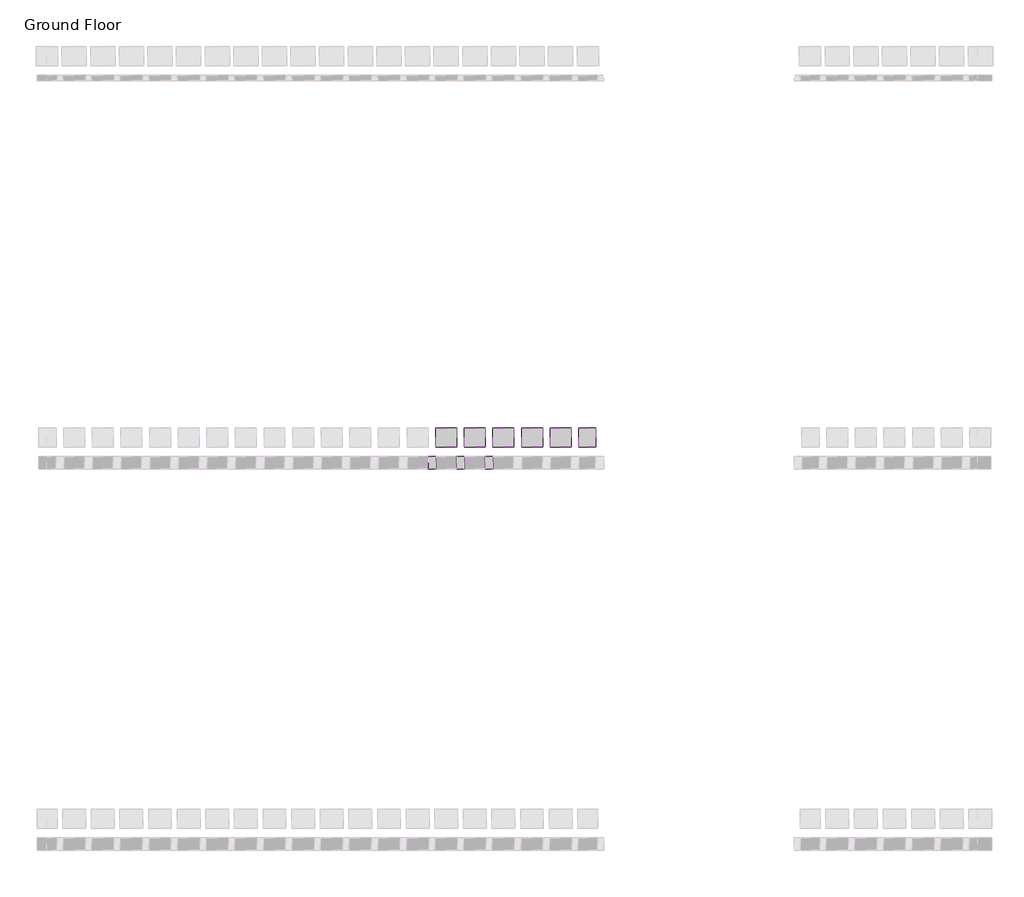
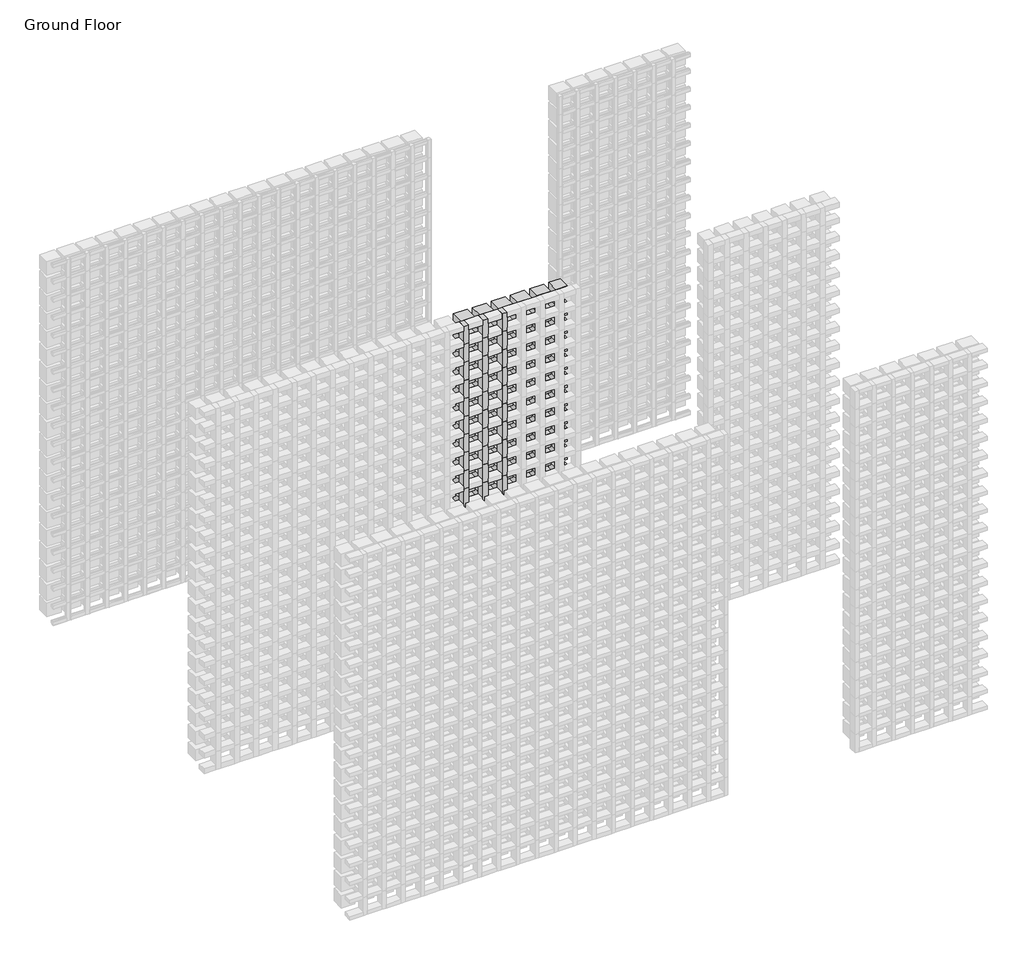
# One storey, part 124 of 350: 82 plates, 59 members.
"""IFC4 building model written with IfcOpenShell, lengths in millimetres."""

from ifc_helpers import new_model, si_unit, origin, place, context, project, spatial, transform, mapped, element, save
from components import rectangular_mullion_655930e9, empty_system_panel_empty_571a4fa0, empty_system_panel_empty_3b500fad, empty_system_panel_empty_1faefc6a, empty_system_panel_empty_b6d7d726

model = new_model("IFC4")

# Units and contexts
model_context = context("Model", 3, world=origin())
ifc_project = project(units=[si_unit("LENGTHUNIT", "METRE", prefix="MILLI")], contexts=[model_context])

# Site, building, storey
site = spatial("IfcSite", under=ifc_project)
building = spatial("IfcBuilding", under=site)
storey = spatial("IfcBuildingStorey", under=building, Name="Ground Floor", Elevation=0.0)

# Members
placement = place(None, origin())
rectangular_mullion_shape = rectangular_mullion_655930e9(model_context)
element("IfcMember", 1, ObjectType="Rectangular Mullion : Batten_Timber_Modinex_Austratus_Grid_Fascia_40x65_Blackbutt", at=placement, inside=storey, context=model_context, shape_type="MappedRepresentation", body=[
    mapped(rectangular_mullion_shape, transform((8016.4361642, 40968.2978302, 150.0), x_axis=(1.0, 0.0, 0.0), y_axis=(0.0, -1.0, 0.0), z_axis=(0.0, 0.0, -1.0))),
])
element("IfcMember", 2, ObjectType="Rectangular Mullion : Batten_Timber_Modinex_Austratus_Grid_Fascia_40x65_Blackbutt", at=placement, inside=storey, context=model_context, shape_type="MappedRepresentation", body=[
    mapped(rectangular_mullion_shape, transform((8016.4361642, 40968.2978302, 300.0), x_axis=(1.0, 0.0, 0.0), y_axis=(0.0, -1.0, 0.0), z_axis=(0.0, 0.0, -1.0))),
])
element("IfcMember", 3, ObjectType="Rectangular Mullion : Batten_Timber_Modinex_Austratus_Grid_Fascia_40x65_Blackbutt", at=placement, inside=storey, context=model_context, shape_type="MappedRepresentation", body=[
    mapped(rectangular_mullion_shape, transform((8016.4361642, 40968.2978302, 450.0), x_axis=(1.0, 0.0, 0.0), y_axis=(0.0, -1.0, 0.0), z_axis=(0.0, 0.0, -1.0))),
])
element("IfcMember", 4, ObjectType="Rectangular Mullion : Batten_Timber_Modinex_Austratus_Grid_Fascia_40x65_Blackbutt", at=placement, inside=storey, context=model_context, shape_type="MappedRepresentation", body=[
    mapped(rectangular_mullion_shape, transform((8016.4361642, 40968.2978302, 600.0), x_axis=(1.0, 0.0, 0.0), y_axis=(0.0, -1.0, 0.0), z_axis=(0.0, 0.0, -1.0))),
])
element("IfcMember", 5, ObjectType="Rectangular Mullion : Batten_Timber_Modinex_Austratus_Grid_Fascia_40x65_Blackbutt", at=placement, inside=storey, context=model_context, shape_type="MappedRepresentation", body=[
    mapped(rectangular_mullion_shape, transform((8016.4361642, 40968.2978302, 750.0), x_axis=(1.0, 0.0, 0.0), y_axis=(0.0, -1.0, 0.0), z_axis=(0.0, 0.0, -1.0))),
])
element("IfcMember", 6, ObjectType="Rectangular Mullion : Batten_Timber_Modinex_Austratus_Grid_Fascia_40x65_Blackbutt", at=placement, inside=storey, context=model_context, shape_type="MappedRepresentation", body=[
    mapped(rectangular_mullion_shape, transform((8016.4361642, 40968.2978302, 900.0), x_axis=(1.0, 0.0, 0.0), y_axis=(0.0, -1.0, 0.0), z_axis=(0.0, 0.0, -1.0))),
])
element("IfcMember", 7, ObjectType="Rectangular Mullion : Batten_Timber_Modinex_Austratus_Grid_Fascia_40x65_Blackbutt", at=placement, inside=storey, context=model_context, shape_type="MappedRepresentation", body=[
    mapped(rectangular_mullion_shape, transform((8016.4361642, 40968.2978302, 1050.0), x_axis=(1.0, 0.0, 0.0), y_axis=(0.0, -1.0, 0.0), z_axis=(0.0, 0.0, -1.0))),
])
element("IfcMember", 8, ObjectType="Rectangular Mullion : Batten_Timber_Modinex_Austratus_Grid_Fascia_40x65_Blackbutt", at=placement, inside=storey, context=model_context, shape_type="MappedRepresentation", body=[
    mapped(rectangular_mullion_shape, transform((8016.4361642, 40968.2978302, 1200.0), x_axis=(1.0, 0.0, 0.0), y_axis=(0.0, -1.0, 0.0), z_axis=(0.0, 0.0, -1.0))),
])
element("IfcMember", 9, ObjectType="Rectangular Mullion : Batten_Timber_Modinex_Austratus_Grid_Fascia_40x65_Blackbutt", at=placement, inside=storey, context=model_context, shape_type="MappedRepresentation", body=[
    mapped(rectangular_mullion_shape, transform((8016.4361642, 40968.2978302, 1350.0), x_axis=(1.0, 0.0, 0.0), y_axis=(0.0, -1.0, 0.0), z_axis=(0.0, 0.0, -1.0))),
])
element("IfcMember", 10, ObjectType="Rectangular Mullion : Batten_Timber_Modinex_Austratus_Grid_Fascia_40x65_Blackbutt", at=placement, inside=storey, context=model_context, shape_type="MappedRepresentation", body=[
    mapped(rectangular_mullion_shape, transform((8016.4361642, 40968.2978302, 1500.0), x_axis=(1.0, 0.0, 0.0), y_axis=(0.0, -1.0, 0.0), z_axis=(0.0, 0.0, -1.0))),
])
element("IfcMember", 11, ObjectType="Rectangular Mullion : Batten_Timber_Modinex_Austratus_Grid_Fascia_40x65_Blackbutt", at=placement, inside=storey, context=model_context, shape_type="MappedRepresentation", body=[
    mapped(rectangular_mullion_shape, transform((8016.4361642, 40968.2978302, 1650.0), x_axis=(1.0, 0.0, 0.0), y_axis=(0.0, -1.0, 0.0), z_axis=(0.0, 0.0, -1.0))),
])
element("IfcMember", 12, ObjectType="Rectangular Mullion : Batten_Timber_Modinex_Austratus_Grid_Fascia_40x65_Blackbutt", at=placement, inside=storey, context=model_context, shape_type="MappedRepresentation", body=[
    mapped(rectangular_mullion_shape, transform((8016.4361642, 40968.2978302, 1800.0), x_axis=(1.0, 0.0, 0.0), y_axis=(0.0, -1.0, 0.0), z_axis=(0.0, 0.0, -1.0))),
])
element("IfcMember", 13, ObjectType="Rectangular Mullion : Batten_Timber_Modinex_Austratus_Grid_Fascia_40x65_Blackbutt", at=placement, inside=storey, context=model_context, shape_type="MappedRepresentation", body=[
    mapped(rectangular_mullion_shape, transform((8016.4361642, 40968.2978302, 1950.0), x_axis=(1.0, 0.0, 0.0), y_axis=(0.0, -1.0, 0.0), z_axis=(0.0, 0.0, -1.0))),
])
element("IfcMember", 14, ObjectType="Rectangular Mullion : Batten_Timber_Modinex_Austratus_Grid_Fascia_40x65_Blackbutt", at=placement, inside=storey, context=model_context, shape_type="MappedRepresentation", body=[
    mapped(rectangular_mullion_shape, transform((8016.4361642, 40968.2978302, 2100.0), x_axis=(1.0, 0.0, 0.0), y_axis=(0.0, -1.0, 0.0), z_axis=(0.0, 0.0, -1.0))),
])
element("IfcMember", 15, ObjectType="Rectangular Mullion : Batten_Timber_Modinex_Austratus_Grid_Fascia_40x65_Blackbutt", at=placement, inside=storey, context=model_context, shape_type="MappedRepresentation", body=[
    mapped(rectangular_mullion_shape, transform((8016.4361642, 40968.2978302, 2250.0), x_axis=(1.0, 0.0, 0.0), y_axis=(0.0, -1.0, 0.0), z_axis=(0.0, 0.0, -1.0))),
])
element("IfcMember", 16, ObjectType="Rectangular Mullion : Batten_Timber_Modinex_Austratus_Grid_Fascia_40x65_Blackbutt", at=placement, inside=storey, context=model_context, shape_type="MappedRepresentation", body=[
    mapped(rectangular_mullion_shape, transform((8016.4361642, 40968.2978302, 2400.0), x_axis=(1.0, 0.0, 0.0), y_axis=(0.0, -1.0, 0.0), z_axis=(0.0, 0.0, -1.0))),
])
element("IfcMember", 17, ObjectType="Rectangular Mullion : Batten_Timber_Modinex_Austratus_Grid_Fascia_40x65_Blackbutt", at=placement, inside=storey, context=model_context, shape_type="MappedRepresentation", body=[
    mapped(rectangular_mullion_shape, transform((8016.4361642, 40968.2978302, 2550.0), x_axis=(1.0, 0.0, 0.0), y_axis=(0.0, -1.0, 0.0), z_axis=(0.0, 0.0, -1.0))),
])
element("IfcMember", 18, ObjectType="Rectangular Mullion : Batten_Timber_Modinex_Austratus_Grid_Fascia_40x65_Blackbutt", at=placement, inside=storey, context=model_context, shape_type="MappedRepresentation", body=[
    mapped(rectangular_mullion_shape, transform((8016.4361642, 40968.2978302, 2700.0), x_axis=(1.0, 0.0, 0.0), y_axis=(0.0, -1.0, 0.0), z_axis=(0.0, 0.0, -1.0))),
])
element("IfcMember", 19, ObjectType="Rectangular Mullion : Batten_Timber_Modinex_Austratus_Grid_Fascia_40x65_Blackbutt", at=placement, inside=storey, context=model_context, shape_type="MappedRepresentation", body=[
    mapped(rectangular_mullion_shape, transform((8166.4361642, 40968.2978302, 150.0), x_axis=(1.0, 0.0, 0.0), y_axis=(0.0, -1.0, 0.0), z_axis=(0.0, 0.0, -1.0))),
])
element("IfcMember", 20, ObjectType="Rectangular Mullion : Batten_Timber_Modinex_Austratus_Grid_Fascia_40x65_Blackbutt", at=placement, inside=storey, context=model_context, shape_type="MappedRepresentation", body=[
    mapped(rectangular_mullion_shape, transform((8166.4361642, 40968.2978302, 300.0), x_axis=(1.0, 0.0, 0.0), y_axis=(0.0, -1.0, 0.0), z_axis=(0.0, 0.0, -1.0))),
])
element("IfcMember", 21, ObjectType="Rectangular Mullion : Batten_Timber_Modinex_Austratus_Grid_Fascia_40x65_Blackbutt", at=placement, inside=storey, context=model_context, shape_type="MappedRepresentation", body=[
    mapped(rectangular_mullion_shape, transform((8166.4361642, 40968.2978302, 450.0), x_axis=(1.0, 0.0, 0.0), y_axis=(0.0, -1.0, 0.0), z_axis=(0.0, 0.0, -1.0))),
])
element("IfcMember", 22, ObjectType="Rectangular Mullion : Batten_Timber_Modinex_Austratus_Grid_Fascia_40x65_Blackbutt", at=placement, inside=storey, context=model_context, shape_type="MappedRepresentation", body=[
    mapped(rectangular_mullion_shape, transform((8166.4361642, 40968.2978302, 600.0), x_axis=(1.0, 0.0, 0.0), y_axis=(0.0, -1.0, 0.0), z_axis=(0.0, 0.0, -1.0))),
])
element("IfcMember", 23, ObjectType="Rectangular Mullion : Batten_Timber_Modinex_Austratus_Grid_Fascia_40x65_Blackbutt", at=placement, inside=storey, context=model_context, shape_type="MappedRepresentation", body=[
    mapped(rectangular_mullion_shape, transform((8166.4361642, 40968.2978302, 750.0), x_axis=(1.0, 0.0, 0.0), y_axis=(0.0, -1.0, 0.0), z_axis=(0.0, 0.0, -1.0))),
])
element("IfcMember", 24, ObjectType="Rectangular Mullion : Batten_Timber_Modinex_Austratus_Grid_Fascia_40x65_Blackbutt", at=placement, inside=storey, context=model_context, shape_type="MappedRepresentation", body=[
    mapped(rectangular_mullion_shape, transform((8166.4361642, 40968.2978302, 900.0), x_axis=(1.0, 0.0, 0.0), y_axis=(0.0, -1.0, 0.0), z_axis=(0.0, 0.0, -1.0))),
])
element("IfcMember", 25, ObjectType="Rectangular Mullion : Batten_Timber_Modinex_Austratus_Grid_Fascia_40x65_Blackbutt", at=placement, inside=storey, context=model_context, shape_type="MappedRepresentation", body=[
    mapped(rectangular_mullion_shape, transform((8166.4361642, 40968.2978302, 1050.0), x_axis=(1.0, 0.0, 0.0), y_axis=(0.0, -1.0, 0.0), z_axis=(0.0, 0.0, -1.0))),
])
element("IfcMember", 26, ObjectType="Rectangular Mullion : Batten_Timber_Modinex_Austratus_Grid_Fascia_40x65_Blackbutt", at=placement, inside=storey, context=model_context, shape_type="MappedRepresentation", body=[
    mapped(rectangular_mullion_shape, transform((8166.4361642, 40968.2978302, 1200.0), x_axis=(1.0, 0.0, 0.0), y_axis=(0.0, -1.0, 0.0), z_axis=(0.0, 0.0, -1.0))),
])
element("IfcMember", 27, ObjectType="Rectangular Mullion : Batten_Timber_Modinex_Austratus_Grid_Fascia_40x65_Blackbutt", at=placement, inside=storey, context=model_context, shape_type="MappedRepresentation", body=[
    mapped(rectangular_mullion_shape, transform((8166.4361642, 40968.2978302, 1350.0), x_axis=(1.0, 0.0, 0.0), y_axis=(0.0, -1.0, 0.0), z_axis=(0.0, 0.0, -1.0))),
])
element("IfcMember", 28, ObjectType="Rectangular Mullion : Batten_Timber_Modinex_Austratus_Grid_Fascia_40x65_Blackbutt", at=placement, inside=storey, context=model_context, shape_type="MappedRepresentation", body=[
    mapped(rectangular_mullion_shape, transform((8166.4361642, 40968.2978302, 1500.0), x_axis=(1.0, 0.0, 0.0), y_axis=(0.0, -1.0, 0.0), z_axis=(0.0, 0.0, -1.0))),
])
element("IfcMember", 29, ObjectType="Rectangular Mullion : Batten_Timber_Modinex_Austratus_Grid_Fascia_40x65_Blackbutt", at=placement, inside=storey, context=model_context, shape_type="MappedRepresentation", body=[
    mapped(rectangular_mullion_shape, transform((8166.4361642, 40968.2978302, 1650.0), x_axis=(1.0, 0.0, 0.0), y_axis=(0.0, -1.0, 0.0), z_axis=(0.0, 0.0, -1.0))),
])
element("IfcMember", 30, ObjectType="Rectangular Mullion : Batten_Timber_Modinex_Austratus_Grid_Fascia_40x65_Blackbutt", at=placement, inside=storey, context=model_context, shape_type="MappedRepresentation", body=[
    mapped(rectangular_mullion_shape, transform((8166.4361642, 40968.2978302, 1800.0), x_axis=(1.0, 0.0, 0.0), y_axis=(0.0, -1.0, 0.0), z_axis=(0.0, 0.0, -1.0))),
])
element("IfcMember", 31, ObjectType="Rectangular Mullion : Batten_Timber_Modinex_Austratus_Grid_Fascia_40x65_Blackbutt", at=placement, inside=storey, context=model_context, shape_type="MappedRepresentation", body=[
    mapped(rectangular_mullion_shape, transform((8166.4361642, 40968.2978302, 1950.0), x_axis=(1.0, 0.0, 0.0), y_axis=(0.0, -1.0, 0.0), z_axis=(0.0, 0.0, -1.0))),
])
element("IfcMember", 32, ObjectType="Rectangular Mullion : Batten_Timber_Modinex_Austratus_Grid_Fascia_40x65_Blackbutt", at=placement, inside=storey, context=model_context, shape_type="MappedRepresentation", body=[
    mapped(rectangular_mullion_shape, transform((8166.4361642, 40968.2978302, 2100.0), x_axis=(1.0, 0.0, 0.0), y_axis=(0.0, -1.0, 0.0), z_axis=(0.0, 0.0, -1.0))),
])
element("IfcMember", 33, ObjectType="Rectangular Mullion : Batten_Timber_Modinex_Austratus_Grid_Fascia_40x65_Blackbutt", at=placement, inside=storey, context=model_context, shape_type="MappedRepresentation", body=[
    mapped(rectangular_mullion_shape, transform((8166.4361642, 40968.2978302, 2250.0), x_axis=(1.0, 0.0, 0.0), y_axis=(0.0, -1.0, 0.0), z_axis=(0.0, 0.0, -1.0))),
])
element("IfcMember", 34, ObjectType="Rectangular Mullion : Batten_Timber_Modinex_Austratus_Grid_Fascia_40x65_Blackbutt", at=placement, inside=storey, context=model_context, shape_type="MappedRepresentation", body=[
    mapped(rectangular_mullion_shape, transform((8166.4361642, 40968.2978302, 2400.0), x_axis=(1.0, 0.0, 0.0), y_axis=(0.0, -1.0, 0.0), z_axis=(0.0, 0.0, -1.0))),
])
element("IfcMember", 35, ObjectType="Rectangular Mullion : Batten_Timber_Modinex_Austratus_Grid_Fascia_40x65_Blackbutt", at=placement, inside=storey, context=model_context, shape_type="MappedRepresentation", body=[
    mapped(rectangular_mullion_shape, transform((8166.4361642, 40968.2978302, 2550.0), x_axis=(1.0, 0.0, 0.0), y_axis=(0.0, -1.0, 0.0), z_axis=(0.0, 0.0, -1.0))),
])
element("IfcMember", 36, ObjectType="Rectangular Mullion : Batten_Timber_Modinex_Austratus_Grid_Fascia_40x65_Blackbutt", at=placement, inside=storey, context=model_context, shape_type="MappedRepresentation", body=[
    mapped(rectangular_mullion_shape, transform((8166.4361642, 40968.2978302, 2700.0), x_axis=(1.0, 0.0, 0.0), y_axis=(0.0, -1.0, 0.0), z_axis=(0.0, 0.0, -1.0))),
])
element("IfcMember", 37, ObjectType="Rectangular Mullion : Batten_Timber_Modinex_Austratus_Grid_Fascia_40x65_Blackbutt", at=placement, inside=storey, context=model_context, shape_type="MappedRepresentation", body=[
    mapped(rectangular_mullion_shape, transform((8316.4361642, 40968.2978302, 150.0), x_axis=(1.0, 0.0, 0.0), y_axis=(0.0, -1.0, 0.0), z_axis=(0.0, 0.0, -1.0))),
])
element("IfcMember", 38, ObjectType="Rectangular Mullion : Batten_Timber_Modinex_Austratus_Grid_Fascia_40x65_Blackbutt", at=placement, inside=storey, context=model_context, shape_type="MappedRepresentation", body=[
    mapped(rectangular_mullion_shape, transform((8316.4361642, 40968.2978302, 300.0), x_axis=(1.0, 0.0, 0.0), y_axis=(0.0, -1.0, 0.0), z_axis=(0.0, 0.0, -1.0))),
])
element("IfcMember", 39, ObjectType="Rectangular Mullion : Batten_Timber_Modinex_Austratus_Grid_Fascia_40x65_Blackbutt", at=placement, inside=storey, context=model_context, shape_type="MappedRepresentation", body=[
    mapped(rectangular_mullion_shape, transform((8316.4361642, 40968.2978302, 450.0), x_axis=(1.0, 0.0, 0.0), y_axis=(0.0, -1.0, 0.0), z_axis=(0.0, 0.0, -1.0))),
])
element("IfcMember", 40, ObjectType="Rectangular Mullion : Batten_Timber_Modinex_Austratus_Grid_Fascia_40x65_Blackbutt", at=placement, inside=storey, context=model_context, shape_type="MappedRepresentation", body=[
    mapped(rectangular_mullion_shape, transform((8316.4361642, 40968.2978302, 600.0), x_axis=(1.0, 0.0, 0.0), y_axis=(0.0, -1.0, 0.0), z_axis=(0.0, 0.0, -1.0))),
])
element("IfcMember", 41, ObjectType="Rectangular Mullion : Batten_Timber_Modinex_Austratus_Grid_Fascia_40x65_Blackbutt", at=placement, inside=storey, context=model_context, shape_type="MappedRepresentation", body=[
    mapped(rectangular_mullion_shape, transform((8316.4361642, 40968.2978302, 750.0), x_axis=(1.0, 0.0, 0.0), y_axis=(0.0, -1.0, 0.0), z_axis=(0.0, 0.0, -1.0))),
])
element("IfcMember", 42, ObjectType="Rectangular Mullion : Batten_Timber_Modinex_Austratus_Grid_Fascia_40x65_Blackbutt", at=placement, inside=storey, context=model_context, shape_type="MappedRepresentation", body=[
    mapped(rectangular_mullion_shape, transform((8316.4361642, 40968.2978302, 900.0), x_axis=(1.0, 0.0, 0.0), y_axis=(0.0, -1.0, 0.0), z_axis=(0.0, 0.0, -1.0))),
])
element("IfcMember", 43, ObjectType="Rectangular Mullion : Batten_Timber_Modinex_Austratus_Grid_Fascia_40x65_Blackbutt", at=placement, inside=storey, context=model_context, shape_type="MappedRepresentation", body=[
    mapped(rectangular_mullion_shape, transform((8316.4361642, 40968.2978302, 1050.0), x_axis=(1.0, 0.0, 0.0), y_axis=(0.0, -1.0, 0.0), z_axis=(0.0, 0.0, -1.0))),
])
element("IfcMember", 44, ObjectType="Rectangular Mullion : Batten_Timber_Modinex_Austratus_Grid_Fascia_40x65_Blackbutt", at=placement, inside=storey, context=model_context, shape_type="MappedRepresentation", body=[
    mapped(rectangular_mullion_shape, transform((8316.4361642, 40968.2978302, 1200.0), x_axis=(1.0, 0.0, 0.0), y_axis=(0.0, -1.0, 0.0), z_axis=(0.0, 0.0, -1.0))),
])
element("IfcMember", 45, ObjectType="Rectangular Mullion : Batten_Timber_Modinex_Austratus_Grid_Fascia_40x65_Blackbutt", at=placement, inside=storey, context=model_context, shape_type="MappedRepresentation", body=[
    mapped(rectangular_mullion_shape, transform((8316.4361642, 40968.2978302, 1350.0), x_axis=(1.0, 0.0, 0.0), y_axis=(0.0, -1.0, 0.0), z_axis=(0.0, 0.0, -1.0))),
])
element("IfcMember", 46, ObjectType="Rectangular Mullion : Batten_Timber_Modinex_Austratus_Grid_Fascia_40x65_Blackbutt", at=placement, inside=storey, context=model_context, shape_type="MappedRepresentation", body=[
    mapped(rectangular_mullion_shape, transform((8316.4361642, 40968.2978302, 1500.0), x_axis=(1.0, 0.0, 0.0), y_axis=(0.0, -1.0, 0.0), z_axis=(0.0, 0.0, -1.0))),
])
element("IfcMember", 47, ObjectType="Rectangular Mullion : Batten_Timber_Modinex_Austratus_Grid_Fascia_40x65_Blackbutt", at=placement, inside=storey, context=model_context, shape_type="MappedRepresentation", body=[
    mapped(rectangular_mullion_shape, transform((8316.4361642, 40968.2978302, 1650.0), x_axis=(1.0, 0.0, 0.0), y_axis=(0.0, -1.0, 0.0), z_axis=(0.0, 0.0, -1.0))),
])
element("IfcMember", 48, ObjectType="Rectangular Mullion : Batten_Timber_Modinex_Austratus_Grid_Fascia_40x65_Blackbutt", at=placement, inside=storey, context=model_context, shape_type="MappedRepresentation", body=[
    mapped(rectangular_mullion_shape, transform((8316.4361642, 40968.2978302, 1800.0), x_axis=(1.0, 0.0, 0.0), y_axis=(0.0, -1.0, 0.0), z_axis=(0.0, 0.0, -1.0))),
])
element("IfcMember", 49, ObjectType="Rectangular Mullion : Batten_Timber_Modinex_Austratus_Grid_Fascia_40x65_Blackbutt", at=placement, inside=storey, context=model_context, shape_type="MappedRepresentation", body=[
    mapped(rectangular_mullion_shape, transform((8316.4361642, 40968.2978302, 1950.0), x_axis=(1.0, 0.0, 0.0), y_axis=(0.0, -1.0, 0.0), z_axis=(0.0, 0.0, -1.0))),
])
element("IfcMember", 50, ObjectType="Rectangular Mullion : Batten_Timber_Modinex_Austratus_Grid_Fascia_40x65_Blackbutt", at=placement, inside=storey, context=model_context, shape_type="MappedRepresentation", body=[
    mapped(rectangular_mullion_shape, transform((8316.4361642, 40968.2978302, 2100.0), x_axis=(1.0, 0.0, 0.0), y_axis=(0.0, -1.0, 0.0), z_axis=(0.0, 0.0, -1.0))),
])
element("IfcMember", 51, ObjectType="Rectangular Mullion : Batten_Timber_Modinex_Austratus_Grid_Fascia_40x65_Blackbutt", at=placement, inside=storey, context=model_context, shape_type="MappedRepresentation", body=[
    mapped(rectangular_mullion_shape, transform((8316.4361642, 40968.2978302, 2250.0), x_axis=(1.0, 0.0, 0.0), y_axis=(0.0, -1.0, 0.0), z_axis=(0.0, 0.0, -1.0))),
])
element("IfcMember", 52, ObjectType="Rectangular Mullion : Batten_Timber_Modinex_Austratus_Grid_Fascia_40x65_Blackbutt", at=placement, inside=storey, context=model_context, shape_type="MappedRepresentation", body=[
    mapped(rectangular_mullion_shape, transform((8316.4361642, 40968.2978302, 2400.0), x_axis=(1.0, 0.0, 0.0), y_axis=(0.0, -1.0, 0.0), z_axis=(0.0, 0.0, -1.0))),
])
element("IfcMember", 53, ObjectType="Rectangular Mullion : Batten_Timber_Modinex_Austratus_Grid_Fascia_40x65_Blackbutt", at=placement, inside=storey, context=model_context, shape_type="MappedRepresentation", body=[
    mapped(rectangular_mullion_shape, transform((8316.4361642, 40968.2978302, 2550.0), x_axis=(1.0, 0.0, 0.0), y_axis=(0.0, -1.0, 0.0), z_axis=(0.0, 0.0, -1.0))),
])
element("IfcMember", 54, ObjectType="Rectangular Mullion : Batten_Timber_Modinex_Austratus_Grid_Fascia_40x65_Blackbutt", at=placement, inside=storey, context=model_context, shape_type="MappedRepresentation", body=[
    mapped(rectangular_mullion_shape, transform((8316.4361642, 40968.2978302, 2700.0), x_axis=(1.0, 0.0, 0.0), y_axis=(0.0, -1.0, 0.0), z_axis=(0.0, 0.0, -1.0))),
])
element("IfcMember", 55, ObjectType="Rectangular Mullion : Batten_Timber_Modinex_Austratus_Grid_Fascia_40x65_Blackbutt", at=placement, inside=storey, context=model_context, shape_type="MappedRepresentation", body=[
    mapped(rectangular_mullion_shape, transform((8466.4361642, 40968.2978302, 150.0), x_axis=(1.0, 0.0, 0.0), y_axis=(0.0, -1.0, 0.0), z_axis=(0.0, 0.0, -1.0))),
])
element("IfcMember", 56, ObjectType="Rectangular Mullion : Batten_Timber_Modinex_Austratus_Grid_Fascia_40x65_Blackbutt", at=placement, inside=storey, context=model_context, shape_type="MappedRepresentation", body=[
    mapped(rectangular_mullion_shape, transform((8466.4361642, 40968.2978302, 300.0), x_axis=(1.0, 0.0, 0.0), y_axis=(0.0, -1.0, 0.0), z_axis=(0.0, 0.0, -1.0))),
])
element("IfcMember", 57, ObjectType="Rectangular Mullion : Batten_Timber_Modinex_Austratus_Grid_Fascia_40x65_Blackbutt", at=placement, inside=storey, context=model_context, shape_type="MappedRepresentation", body=[
    mapped(rectangular_mullion_shape, transform((8016.4361642, 40968.2978302, 2850.0), x_axis=(1.0, 0.0, 0.0), y_axis=(0.0, -1.0, 0.0), z_axis=(0.0, 0.0, -1.0))),
])
element("IfcMember", 58, ObjectType="Rectangular Mullion : Batten_Timber_Modinex_Austratus_Grid_Fascia_40x65_Blackbutt", at=placement, inside=storey, context=model_context, shape_type="MappedRepresentation", body=[
    mapped(rectangular_mullion_shape, transform((8166.4361642, 40968.2978302, 2850.0), x_axis=(1.0, 0.0, 0.0), y_axis=(0.0, -1.0, 0.0), z_axis=(0.0, 0.0, -1.0))),
])
element("IfcMember", 59, ObjectType="Rectangular Mullion : Batten_Timber_Modinex_Austratus_Grid_Fascia_40x65_Blackbutt", at=placement, inside=storey, context=model_context, shape_type="MappedRepresentation", body=[
    mapped(rectangular_mullion_shape, transform((8316.4361642, 40968.2978302, 2850.0), x_axis=(1.0, 0.0, 0.0), y_axis=(0.0, -1.0, 0.0), z_axis=(0.0, 0.0, -1.0))),
])

# Plates
empty_system_panel_empty_shape = empty_system_panel_empty_571a4fa0(model_context)
element("IfcPlate", 60, ObjectType="Empty System Panel : Empty", at=placement, inside=storey, context=model_context, shape_type="MappedRepresentation", body=[
    mapped(empty_system_panel_empty_shape, transform((8831.4361641, 40968.2978302, 2870.0), x_axis=(1.0, 0.0, 0.0), y_axis=(0.0, 1.0, 0.0), z_axis=(0.0, 0.0, 1.0))),
])
empty_system_panel_empty_2_shape = empty_system_panel_empty_3b500fad(model_context)
element("IfcPlate", 61, ObjectType="Empty System Panel : Empty", at=placement, inside=storey, context=model_context, shape_type="MappedRepresentation", body=[
    mapped(empty_system_panel_empty_2_shape, transform((8391.4361642, 40968.2978302, 920.0), x_axis=(1.0, 0.0, 0.0), y_axis=(0.0, 1.0, 0.0), z_axis=(0.0, 0.0, 1.0))),
])
element("IfcPlate", 62, ObjectType="Empty System Panel : Empty", at=placement, inside=storey, context=model_context, shape_type="MappedRepresentation", body=[
    mapped(empty_system_panel_empty_2_shape, transform((8541.4361642, 40968.2978302, 920.0), x_axis=(1.0, 0.0, 0.0), y_axis=(0.0, 1.0, 0.0), z_axis=(0.0, 0.0, 1.0))),
])
element("IfcPlate", 63, ObjectType="Empty System Panel : Empty", at=placement, inside=storey, context=model_context, shape_type="MappedRepresentation", body=[
    mapped(empty_system_panel_empty_2_shape, transform((8691.4361642, 40968.2978302, 920.0), x_axis=(1.0, 0.0, 0.0), y_axis=(0.0, 1.0, 0.0), z_axis=(0.0, 0.0, 1.0))),
])
element("IfcPlate", 64, ObjectType="Empty System Panel : Empty", at=placement, inside=storey, context=model_context, shape_type="MappedRepresentation", body=[
    mapped(empty_system_panel_empty_2_shape, transform((8091.4361642, 40968.2978302, 1070.0), x_axis=(1.0, 0.0, 0.0), y_axis=(0.0, 1.0, 0.0), z_axis=(0.0, 0.0, 1.0))),
])
element("IfcPlate", 65, ObjectType="Empty System Panel : Empty", at=placement, inside=storey, context=model_context, shape_type="MappedRepresentation", body=[
    mapped(empty_system_panel_empty_2_shape, transform((8241.4361642, 40968.2978302, 1070.0), x_axis=(1.0, 0.0, 0.0), y_axis=(0.0, 1.0, 0.0), z_axis=(0.0, 0.0, 1.0))),
])
element("IfcPlate", 66, ObjectType="Empty System Panel : Empty", at=placement, inside=storey, context=model_context, shape_type="MappedRepresentation", body=[
    mapped(empty_system_panel_empty_2_shape, transform((8391.4361642, 40968.2978302, 1070.0), x_axis=(1.0, 0.0, 0.0), y_axis=(0.0, 1.0, 0.0), z_axis=(0.0, 0.0, 1.0))),
])
element("IfcPlate", 67, ObjectType="Empty System Panel : Empty", at=placement, inside=storey, context=model_context, shape_type="MappedRepresentation", body=[
    mapped(empty_system_panel_empty_2_shape, transform((8541.4361642, 40968.2978302, 1070.0), x_axis=(1.0, 0.0, 0.0), y_axis=(0.0, 1.0, 0.0), z_axis=(0.0, 0.0, 1.0))),
])
element("IfcPlate", 68, ObjectType="Empty System Panel : Empty", at=placement, inside=storey, context=model_context, shape_type="MappedRepresentation", body=[
    mapped(empty_system_panel_empty_2_shape, transform((8691.4361642, 40968.2978302, 1070.0), x_axis=(1.0, 0.0, 0.0), y_axis=(0.0, 1.0, 0.0), z_axis=(0.0, 0.0, 1.0))),
])
element("IfcPlate", 69, ObjectType="Empty System Panel : Empty", at=placement, inside=storey, context=model_context, shape_type="MappedRepresentation", body=[
    mapped(empty_system_panel_empty_2_shape, transform((8091.4361642, 40968.2978302, 1220.0), x_axis=(1.0, 0.0, 0.0), y_axis=(0.0, 1.0, 0.0), z_axis=(0.0, 0.0, 1.0))),
])
element("IfcPlate", 70, ObjectType="Empty System Panel : Empty", at=placement, inside=storey, context=model_context, shape_type="MappedRepresentation", body=[
    mapped(empty_system_panel_empty_2_shape, transform((8241.4361642, 40968.2978302, 1220.0), x_axis=(1.0, 0.0, 0.0), y_axis=(0.0, 1.0, 0.0), z_axis=(0.0, 0.0, 1.0))),
])
element("IfcPlate", 71, ObjectType="Empty System Panel : Empty", at=placement, inside=storey, context=model_context, shape_type="MappedRepresentation", body=[
    mapped(empty_system_panel_empty_2_shape, transform((8391.4361642, 40968.2978302, 1220.0), x_axis=(1.0, 0.0, 0.0), y_axis=(0.0, 1.0, 0.0), z_axis=(0.0, 0.0, 1.0))),
])
element("IfcPlate", 72, ObjectType="Empty System Panel : Empty", at=placement, inside=storey, context=model_context, shape_type="MappedRepresentation", body=[
    mapped(empty_system_panel_empty_2_shape, transform((8541.4361642, 40968.2978302, 1220.0), x_axis=(1.0, 0.0, 0.0), y_axis=(0.0, 1.0, 0.0), z_axis=(0.0, 0.0, 1.0))),
])
element("IfcPlate", 73, ObjectType="Empty System Panel : Empty", at=placement, inside=storey, context=model_context, shape_type="MappedRepresentation", body=[
    mapped(empty_system_panel_empty_2_shape, transform((8691.4361642, 40968.2978302, 1220.0), x_axis=(1.0, 0.0, 0.0), y_axis=(0.0, 1.0, 0.0), z_axis=(0.0, 0.0, 1.0))),
])
element("IfcPlate", 74, ObjectType="Empty System Panel : Empty", at=placement, inside=storey, context=model_context, shape_type="MappedRepresentation", body=[
    mapped(empty_system_panel_empty_2_shape, transform((8091.4361642, 40968.2978302, 1370.0), x_axis=(1.0, 0.0, 0.0), y_axis=(0.0, 1.0, 0.0), z_axis=(0.0, 0.0, 1.0))),
])
element("IfcPlate", 75, ObjectType="Empty System Panel : Empty", at=placement, inside=storey, context=model_context, shape_type="MappedRepresentation", body=[
    mapped(empty_system_panel_empty_2_shape, transform((8241.4361642, 40968.2978302, 1370.0), x_axis=(1.0, 0.0, 0.0), y_axis=(0.0, 1.0, 0.0), z_axis=(0.0, 0.0, 1.0))),
])
element("IfcPlate", 76, ObjectType="Empty System Panel : Empty", at=placement, inside=storey, context=model_context, shape_type="MappedRepresentation", body=[
    mapped(empty_system_panel_empty_2_shape, transform((8391.4361642, 40968.2978302, 1370.0), x_axis=(1.0, 0.0, 0.0), y_axis=(0.0, 1.0, 0.0), z_axis=(0.0, 0.0, 1.0))),
])
element("IfcPlate", 77, ObjectType="Empty System Panel : Empty", at=placement, inside=storey, context=model_context, shape_type="MappedRepresentation", body=[
    mapped(empty_system_panel_empty_2_shape, transform((8541.4361642, 40968.2978302, 1370.0), x_axis=(1.0, 0.0, 0.0), y_axis=(0.0, 1.0, 0.0), z_axis=(0.0, 0.0, 1.0))),
])
element("IfcPlate", 78, ObjectType="Empty System Panel : Empty", at=placement, inside=storey, context=model_context, shape_type="MappedRepresentation", body=[
    mapped(empty_system_panel_empty_2_shape, transform((8691.4361642, 40968.2978302, 1370.0), x_axis=(1.0, 0.0, 0.0), y_axis=(0.0, 1.0, 0.0), z_axis=(0.0, 0.0, 1.0))),
])
element("IfcPlate", 79, ObjectType="Empty System Panel : Empty", at=placement, inside=storey, context=model_context, shape_type="MappedRepresentation", body=[
    mapped(empty_system_panel_empty_2_shape, transform((8091.4361642, 40968.2978302, 1520.0), x_axis=(1.0, 0.0, 0.0), y_axis=(0.0, 1.0, 0.0), z_axis=(0.0, 0.0, 1.0))),
])
element("IfcPlate", 80, ObjectType="Empty System Panel : Empty", at=placement, inside=storey, context=model_context, shape_type="MappedRepresentation", body=[
    mapped(empty_system_panel_empty_2_shape, transform((8241.4361642, 40968.2978302, 1520.0), x_axis=(1.0, 0.0, 0.0), y_axis=(0.0, 1.0, 0.0), z_axis=(0.0, 0.0, 1.0))),
])
element("IfcPlate", 81, ObjectType="Empty System Panel : Empty", at=placement, inside=storey, context=model_context, shape_type="MappedRepresentation", body=[
    mapped(empty_system_panel_empty_2_shape, transform((8391.4361642, 40968.2978302, 1520.0), x_axis=(1.0, 0.0, 0.0), y_axis=(0.0, 1.0, 0.0), z_axis=(0.0, 0.0, 1.0))),
])
element("IfcPlate", 82, ObjectType="Empty System Panel : Empty", at=placement, inside=storey, context=model_context, shape_type="MappedRepresentation", body=[
    mapped(empty_system_panel_empty_2_shape, transform((8541.4361642, 40968.2978302, 1520.0), x_axis=(1.0, 0.0, 0.0), y_axis=(0.0, 1.0, 0.0), z_axis=(0.0, 0.0, 1.0))),
])
element("IfcPlate", 83, ObjectType="Empty System Panel : Empty", at=placement, inside=storey, context=model_context, shape_type="MappedRepresentation", body=[
    mapped(empty_system_panel_empty_2_shape, transform((8691.4361642, 40968.2978302, 1520.0), x_axis=(1.0, 0.0, 0.0), y_axis=(0.0, 1.0, 0.0), z_axis=(0.0, 0.0, 1.0))),
])
element("IfcPlate", 84, ObjectType="Empty System Panel : Empty", at=placement, inside=storey, context=model_context, shape_type="MappedRepresentation", body=[
    mapped(empty_system_panel_empty_2_shape, transform((8091.4361642, 40968.2978302, 1670.0), x_axis=(1.0, 0.0, 0.0), y_axis=(0.0, 1.0, 0.0), z_axis=(0.0, 0.0, 1.0))),
])
element("IfcPlate", 85, ObjectType="Empty System Panel : Empty", at=placement, inside=storey, context=model_context, shape_type="MappedRepresentation", body=[
    mapped(empty_system_panel_empty_2_shape, transform((8241.4361642, 40968.2978302, 1670.0), x_axis=(1.0, 0.0, 0.0), y_axis=(0.0, 1.0, 0.0), z_axis=(0.0, 0.0, 1.0))),
])
element("IfcPlate", 86, ObjectType="Empty System Panel : Empty", at=placement, inside=storey, context=model_context, shape_type="MappedRepresentation", body=[
    mapped(empty_system_panel_empty_2_shape, transform((8391.4361642, 40968.2978302, 1670.0), x_axis=(1.0, 0.0, 0.0), y_axis=(0.0, 1.0, 0.0), z_axis=(0.0, 0.0, 1.0))),
])
element("IfcPlate", 87, ObjectType="Empty System Panel : Empty", at=placement, inside=storey, context=model_context, shape_type="MappedRepresentation", body=[
    mapped(empty_system_panel_empty_2_shape, transform((8541.4361642, 40968.2978302, 1670.0), x_axis=(1.0, 0.0, 0.0), y_axis=(0.0, 1.0, 0.0), z_axis=(0.0, 0.0, 1.0))),
])
element("IfcPlate", 88, ObjectType="Empty System Panel : Empty", at=placement, inside=storey, context=model_context, shape_type="MappedRepresentation", body=[
    mapped(empty_system_panel_empty_2_shape, transform((8691.4361642, 40968.2978302, 1670.0), x_axis=(1.0, 0.0, 0.0), y_axis=(0.0, 1.0, 0.0), z_axis=(0.0, 0.0, 1.0))),
])
element("IfcPlate", 89, ObjectType="Empty System Panel : Empty", at=placement, inside=storey, context=model_context, shape_type="MappedRepresentation", body=[
    mapped(empty_system_panel_empty_2_shape, transform((8091.4361642, 40968.2978302, 1820.0), x_axis=(1.0, 0.0, 0.0), y_axis=(0.0, 1.0, 0.0), z_axis=(0.0, 0.0, 1.0))),
])
element("IfcPlate", 90, ObjectType="Empty System Panel : Empty", at=placement, inside=storey, context=model_context, shape_type="MappedRepresentation", body=[
    mapped(empty_system_panel_empty_2_shape, transform((8241.4361642, 40968.2978302, 1820.0), x_axis=(1.0, 0.0, 0.0), y_axis=(0.0, 1.0, 0.0), z_axis=(0.0, 0.0, 1.0))),
])
element("IfcPlate", 91, ObjectType="Empty System Panel : Empty", at=placement, inside=storey, context=model_context, shape_type="MappedRepresentation", body=[
    mapped(empty_system_panel_empty_2_shape, transform((8391.4361642, 40968.2978302, 1820.0), x_axis=(1.0, 0.0, 0.0), y_axis=(0.0, 1.0, 0.0), z_axis=(0.0, 0.0, 1.0))),
])
element("IfcPlate", 92, ObjectType="Empty System Panel : Empty", at=placement, inside=storey, context=model_context, shape_type="MappedRepresentation", body=[
    mapped(empty_system_panel_empty_2_shape, transform((8541.4361642, 40968.2978302, 1820.0), x_axis=(1.0, 0.0, 0.0), y_axis=(0.0, 1.0, 0.0), z_axis=(0.0, 0.0, 1.0))),
])
element("IfcPlate", 93, ObjectType="Empty System Panel : Empty", at=placement, inside=storey, context=model_context, shape_type="MappedRepresentation", body=[
    mapped(empty_system_panel_empty_2_shape, transform((8691.4361642, 40968.2978302, 1820.0), x_axis=(1.0, 0.0, 0.0), y_axis=(0.0, 1.0, 0.0), z_axis=(0.0, 0.0, 1.0))),
])
element("IfcPlate", 94, ObjectType="Empty System Panel : Empty", at=placement, inside=storey, context=model_context, shape_type="MappedRepresentation", body=[
    mapped(empty_system_panel_empty_2_shape, transform((8091.4361642, 40968.2978302, 1970.0), x_axis=(1.0, 0.0, 0.0), y_axis=(0.0, 1.0, 0.0), z_axis=(0.0, 0.0, 1.0))),
])
element("IfcPlate", 95, ObjectType="Empty System Panel : Empty", at=placement, inside=storey, context=model_context, shape_type="MappedRepresentation", body=[
    mapped(empty_system_panel_empty_2_shape, transform((8241.4361642, 40968.2978302, 1970.0), x_axis=(1.0, 0.0, 0.0), y_axis=(0.0, 1.0, 0.0), z_axis=(0.0, 0.0, 1.0))),
])
element("IfcPlate", 96, ObjectType="Empty System Panel : Empty", at=placement, inside=storey, context=model_context, shape_type="MappedRepresentation", body=[
    mapped(empty_system_panel_empty_2_shape, transform((8391.4361642, 40968.2978302, 1970.0), x_axis=(1.0, 0.0, 0.0), y_axis=(0.0, 1.0, 0.0), z_axis=(0.0, 0.0, 1.0))),
])
element("IfcPlate", 97, ObjectType="Empty System Panel : Empty", at=placement, inside=storey, context=model_context, shape_type="MappedRepresentation", body=[
    mapped(empty_system_panel_empty_2_shape, transform((8541.4361642, 40968.2978302, 1970.0), x_axis=(1.0, 0.0, 0.0), y_axis=(0.0, 1.0, 0.0), z_axis=(0.0, 0.0, 1.0))),
])
element("IfcPlate", 98, ObjectType="Empty System Panel : Empty", at=placement, inside=storey, context=model_context, shape_type="MappedRepresentation", body=[
    mapped(empty_system_panel_empty_2_shape, transform((8691.4361642, 40968.2978302, 1970.0), x_axis=(1.0, 0.0, 0.0), y_axis=(0.0, 1.0, 0.0), z_axis=(0.0, 0.0, 1.0))),
])
element("IfcPlate", 99, ObjectType="Empty System Panel : Empty", at=placement, inside=storey, context=model_context, shape_type="MappedRepresentation", body=[
    mapped(empty_system_panel_empty_2_shape, transform((8091.4361642, 40968.2978302, 2120.0), x_axis=(1.0, 0.0, 0.0), y_axis=(0.0, 1.0, 0.0), z_axis=(0.0, 0.0, 1.0))),
])
element("IfcPlate", 100, ObjectType="Empty System Panel : Empty", at=placement, inside=storey, context=model_context, shape_type="MappedRepresentation", body=[
    mapped(empty_system_panel_empty_2_shape, transform((8241.4361642, 40968.2978302, 2120.0), x_axis=(1.0, 0.0, 0.0), y_axis=(0.0, 1.0, 0.0), z_axis=(0.0, 0.0, 1.0))),
])
element("IfcPlate", 101, ObjectType="Empty System Panel : Empty", at=placement, inside=storey, context=model_context, shape_type="MappedRepresentation", body=[
    mapped(empty_system_panel_empty_2_shape, transform((8391.4361642, 40968.2978302, 2120.0), x_axis=(1.0, 0.0, 0.0), y_axis=(0.0, 1.0, 0.0), z_axis=(0.0, 0.0, 1.0))),
])
element("IfcPlate", 102, ObjectType="Empty System Panel : Empty", at=placement, inside=storey, context=model_context, shape_type="MappedRepresentation", body=[
    mapped(empty_system_panel_empty_2_shape, transform((8541.4361642, 40968.2978302, 2120.0), x_axis=(1.0, 0.0, 0.0), y_axis=(0.0, 1.0, 0.0), z_axis=(0.0, 0.0, 1.0))),
])
element("IfcPlate", 103, ObjectType="Empty System Panel : Empty", at=placement, inside=storey, context=model_context, shape_type="MappedRepresentation", body=[
    mapped(empty_system_panel_empty_2_shape, transform((8691.4361642, 40968.2978302, 2120.0), x_axis=(1.0, 0.0, 0.0), y_axis=(0.0, 1.0, 0.0), z_axis=(0.0, 0.0, 1.0))),
])
element("IfcPlate", 104, ObjectType="Empty System Panel : Empty", at=placement, inside=storey, context=model_context, shape_type="MappedRepresentation", body=[
    mapped(empty_system_panel_empty_2_shape, transform((8091.4361642, 40968.2978302, 2270.0), x_axis=(1.0, 0.0, 0.0), y_axis=(0.0, 1.0, 0.0), z_axis=(0.0, 0.0, 1.0))),
])
element("IfcPlate", 105, ObjectType="Empty System Panel : Empty", at=placement, inside=storey, context=model_context, shape_type="MappedRepresentation", body=[
    mapped(empty_system_panel_empty_2_shape, transform((8241.4361642, 40968.2978302, 2270.0), x_axis=(1.0, 0.0, 0.0), y_axis=(0.0, 1.0, 0.0), z_axis=(0.0, 0.0, 1.0))),
])
element("IfcPlate", 106, ObjectType="Empty System Panel : Empty", at=placement, inside=storey, context=model_context, shape_type="MappedRepresentation", body=[
    mapped(empty_system_panel_empty_2_shape, transform((8391.4361642, 40968.2978302, 2270.0), x_axis=(1.0, 0.0, 0.0), y_axis=(0.0, 1.0, 0.0), z_axis=(0.0, 0.0, 1.0))),
])
element("IfcPlate", 107, ObjectType="Empty System Panel : Empty", at=placement, inside=storey, context=model_context, shape_type="MappedRepresentation", body=[
    mapped(empty_system_panel_empty_2_shape, transform((8541.4361642, 40968.2978302, 2270.0), x_axis=(1.0, 0.0, 0.0), y_axis=(0.0, 1.0, 0.0), z_axis=(0.0, 0.0, 1.0))),
])
element("IfcPlate", 108, ObjectType="Empty System Panel : Empty", at=placement, inside=storey, context=model_context, shape_type="MappedRepresentation", body=[
    mapped(empty_system_panel_empty_2_shape, transform((8691.4361642, 40968.2978302, 2270.0), x_axis=(1.0, 0.0, 0.0), y_axis=(0.0, 1.0, 0.0), z_axis=(0.0, 0.0, 1.0))),
])
element("IfcPlate", 109, ObjectType="Empty System Panel : Empty", at=placement, inside=storey, context=model_context, shape_type="MappedRepresentation", body=[
    mapped(empty_system_panel_empty_2_shape, transform((8091.4361642, 40968.2978302, 2420.0), x_axis=(1.0, 0.0, 0.0), y_axis=(0.0, 1.0, 0.0), z_axis=(0.0, 0.0, 1.0))),
])
element("IfcPlate", 110, ObjectType="Empty System Panel : Empty", at=placement, inside=storey, context=model_context, shape_type="MappedRepresentation", body=[
    mapped(empty_system_panel_empty_2_shape, transform((8241.4361642, 40968.2978302, 2420.0), x_axis=(1.0, 0.0, 0.0), y_axis=(0.0, 1.0, 0.0), z_axis=(0.0, 0.0, 1.0))),
])
element("IfcPlate", 111, ObjectType="Empty System Panel : Empty", at=placement, inside=storey, context=model_context, shape_type="MappedRepresentation", body=[
    mapped(empty_system_panel_empty_2_shape, transform((8391.4361642, 40968.2978302, 2420.0), x_axis=(1.0, 0.0, 0.0), y_axis=(0.0, 1.0, 0.0), z_axis=(0.0, 0.0, 1.0))),
])
element("IfcPlate", 112, ObjectType="Empty System Panel : Empty", at=placement, inside=storey, context=model_context, shape_type="MappedRepresentation", body=[
    mapped(empty_system_panel_empty_2_shape, transform((8541.4361642, 40968.2978302, 2420.0), x_axis=(1.0, 0.0, 0.0), y_axis=(0.0, 1.0, 0.0), z_axis=(0.0, 0.0, 1.0))),
])
element("IfcPlate", 113, ObjectType="Empty System Panel : Empty", at=placement, inside=storey, context=model_context, shape_type="MappedRepresentation", body=[
    mapped(empty_system_panel_empty_2_shape, transform((8691.4361642, 40968.2978302, 2420.0), x_axis=(1.0, 0.0, 0.0), y_axis=(0.0, 1.0, 0.0), z_axis=(0.0, 0.0, 1.0))),
])
element("IfcPlate", 114, ObjectType="Empty System Panel : Empty", at=placement, inside=storey, context=model_context, shape_type="MappedRepresentation", body=[
    mapped(empty_system_panel_empty_2_shape, transform((8091.4361642, 40968.2978302, 2570.0), x_axis=(1.0, 0.0, 0.0), y_axis=(0.0, 1.0, 0.0), z_axis=(0.0, 0.0, 1.0))),
])
element("IfcPlate", 115, ObjectType="Empty System Panel : Empty", at=placement, inside=storey, context=model_context, shape_type="MappedRepresentation", body=[
    mapped(empty_system_panel_empty_2_shape, transform((8241.4361642, 40968.2978302, 2570.0), x_axis=(1.0, 0.0, 0.0), y_axis=(0.0, 1.0, 0.0), z_axis=(0.0, 0.0, 1.0))),
])
element("IfcPlate", 116, ObjectType="Empty System Panel : Empty", at=placement, inside=storey, context=model_context, shape_type="MappedRepresentation", body=[
    mapped(empty_system_panel_empty_2_shape, transform((8391.4361642, 40968.2978302, 2570.0), x_axis=(1.0, 0.0, 0.0), y_axis=(0.0, 1.0, 0.0), z_axis=(0.0, 0.0, 1.0))),
])
element("IfcPlate", 117, ObjectType="Empty System Panel : Empty", at=placement, inside=storey, context=model_context, shape_type="MappedRepresentation", body=[
    mapped(empty_system_panel_empty_2_shape, transform((8541.4361642, 40968.2978302, 2570.0), x_axis=(1.0, 0.0, 0.0), y_axis=(0.0, 1.0, 0.0), z_axis=(0.0, 0.0, 1.0))),
])
element("IfcPlate", 118, ObjectType="Empty System Panel : Empty", at=placement, inside=storey, context=model_context, shape_type="MappedRepresentation", body=[
    mapped(empty_system_panel_empty_2_shape, transform((8691.4361642, 40968.2978302, 2570.0), x_axis=(1.0, 0.0, 0.0), y_axis=(0.0, 1.0, 0.0), z_axis=(0.0, 0.0, 1.0))),
])
element("IfcPlate", 119, ObjectType="Empty System Panel : Empty", at=placement, inside=storey, context=model_context, shape_type="MappedRepresentation", body=[
    mapped(empty_system_panel_empty_2_shape, transform((8091.4361642, 40968.2978302, 2720.0), x_axis=(1.0, 0.0, 0.0), y_axis=(0.0, 1.0, 0.0), z_axis=(0.0, 0.0, 1.0))),
])
element("IfcPlate", 120, ObjectType="Empty System Panel : Empty", at=placement, inside=storey, context=model_context, shape_type="MappedRepresentation", body=[
    mapped(empty_system_panel_empty_2_shape, transform((8241.4361642, 40968.2978302, 2720.0), x_axis=(1.0, 0.0, 0.0), y_axis=(0.0, 1.0, 0.0), z_axis=(0.0, 0.0, 1.0))),
])
element("IfcPlate", 121, ObjectType="Empty System Panel : Empty", at=placement, inside=storey, context=model_context, shape_type="MappedRepresentation", body=[
    mapped(empty_system_panel_empty_2_shape, transform((8391.4361642, 40968.2978302, 2720.0), x_axis=(1.0, 0.0, 0.0), y_axis=(0.0, 1.0, 0.0), z_axis=(0.0, 0.0, 1.0))),
])
element("IfcPlate", 122, ObjectType="Empty System Panel : Empty", at=placement, inside=storey, context=model_context, shape_type="MappedRepresentation", body=[
    mapped(empty_system_panel_empty_2_shape, transform((8541.4361642, 40968.2978302, 2720.0), x_axis=(1.0, 0.0, 0.0), y_axis=(0.0, 1.0, 0.0), z_axis=(0.0, 0.0, 1.0))),
])
element("IfcPlate", 123, ObjectType="Empty System Panel : Empty", at=placement, inside=storey, context=model_context, shape_type="MappedRepresentation", body=[
    mapped(empty_system_panel_empty_2_shape, transform((8691.4361642, 40968.2978302, 2720.0), x_axis=(1.0, 0.0, 0.0), y_axis=(0.0, 1.0, 0.0), z_axis=(0.0, 0.0, 1.0))),
])
empty_system_panel_empty_3_shape = empty_system_panel_empty_1faefc6a(model_context)
element("IfcPlate", 124, ObjectType="Empty System Panel : Empty", at=placement, inside=storey, context=model_context, shape_type="MappedRepresentation", body=[
    mapped(empty_system_panel_empty_3_shape, transform((8091.4361642, 40968.2978302, 2870.0), x_axis=(1.0, 0.0, 0.0), y_axis=(0.0, 1.0, 0.0), z_axis=(0.0, 0.0, 1.0))),
])
element("IfcPlate", 125, ObjectType="Empty System Panel : Empty", at=placement, inside=storey, context=model_context, shape_type="MappedRepresentation", body=[
    mapped(empty_system_panel_empty_3_shape, transform((8241.4361642, 40968.2978302, 2870.0), x_axis=(1.0, 0.0, 0.0), y_axis=(0.0, 1.0, 0.0), z_axis=(0.0, 0.0, 1.0))),
])
element("IfcPlate", 126, ObjectType="Empty System Panel : Empty", at=placement, inside=storey, context=model_context, shape_type="MappedRepresentation", body=[
    mapped(empty_system_panel_empty_3_shape, transform((8391.4361642, 40968.2978302, 2870.0), x_axis=(1.0, 0.0, 0.0), y_axis=(0.0, 1.0, 0.0), z_axis=(0.0, 0.0, 1.0))),
])
element("IfcPlate", 127, ObjectType="Empty System Panel : Empty", at=placement, inside=storey, context=model_context, shape_type="MappedRepresentation", body=[
    mapped(empty_system_panel_empty_3_shape, transform((8541.4361642, 40968.2978302, 2870.0), x_axis=(1.0, 0.0, 0.0), y_axis=(0.0, 1.0, 0.0), z_axis=(0.0, 0.0, 1.0))),
])
element("IfcPlate", 128, ObjectType="Empty System Panel : Empty", at=placement, inside=storey, context=model_context, shape_type="MappedRepresentation", body=[
    mapped(empty_system_panel_empty_3_shape, transform((8691.4361642, 40968.2978302, 2870.0), x_axis=(1.0, 0.0, 0.0), y_axis=(0.0, 1.0, 0.0), z_axis=(0.0, 0.0, 1.0))),
])
empty_system_panel_empty_4_shape = empty_system_panel_empty_b6d7d726(model_context)
element("IfcPlate", 129, ObjectType="Empty System Panel : Empty", at=placement, inside=storey, context=model_context, shape_type="MappedRepresentation", body=[
    mapped(empty_system_panel_empty_4_shape, transform((8831.4361641, 40968.2978302, 920.0), x_axis=(1.0, 0.0, 0.0), y_axis=(0.0, 1.0, 0.0), z_axis=(0.0, 0.0, 1.0))),
])
element("IfcPlate", 130, ObjectType="Empty System Panel : Empty", at=placement, inside=storey, context=model_context, shape_type="MappedRepresentation", body=[
    mapped(empty_system_panel_empty_4_shape, transform((8831.4361641, 40968.2978302, 1070.0), x_axis=(1.0, 0.0, 0.0), y_axis=(0.0, 1.0, 0.0), z_axis=(0.0, 0.0, 1.0))),
])
element("IfcPlate", 131, ObjectType="Empty System Panel : Empty", at=placement, inside=storey, context=model_context, shape_type="MappedRepresentation", body=[
    mapped(empty_system_panel_empty_4_shape, transform((8831.4361641, 40968.2978302, 1220.0), x_axis=(1.0, 0.0, 0.0), y_axis=(0.0, 1.0, 0.0), z_axis=(0.0, 0.0, 1.0))),
])
element("IfcPlate", 132, ObjectType="Empty System Panel : Empty", at=placement, inside=storey, context=model_context, shape_type="MappedRepresentation", body=[
    mapped(empty_system_panel_empty_4_shape, transform((8831.4361641, 40968.2978302, 1370.0), x_axis=(1.0, 0.0, 0.0), y_axis=(0.0, 1.0, 0.0), z_axis=(0.0, 0.0, 1.0))),
])
element("IfcPlate", 133, ObjectType="Empty System Panel : Empty", at=placement, inside=storey, context=model_context, shape_type="MappedRepresentation", body=[
    mapped(empty_system_panel_empty_4_shape, transform((8831.4361641, 40968.2978302, 1520.0), x_axis=(1.0, 0.0, 0.0), y_axis=(0.0, 1.0, 0.0), z_axis=(0.0, 0.0, 1.0))),
])
element("IfcPlate", 134, ObjectType="Empty System Panel : Empty", at=placement, inside=storey, context=model_context, shape_type="MappedRepresentation", body=[
    mapped(empty_system_panel_empty_4_shape, transform((8831.4361641, 40968.2978302, 1670.0), x_axis=(1.0, 0.0, 0.0), y_axis=(0.0, 1.0, 0.0), z_axis=(0.0, 0.0, 1.0))),
])
element("IfcPlate", 135, ObjectType="Empty System Panel : Empty", at=placement, inside=storey, context=model_context, shape_type="MappedRepresentation", body=[
    mapped(empty_system_panel_empty_4_shape, transform((8831.4361641, 40968.2978302, 1820.0), x_axis=(1.0, 0.0, 0.0), y_axis=(0.0, 1.0, 0.0), z_axis=(0.0, 0.0, 1.0))),
])
element("IfcPlate", 136, ObjectType="Empty System Panel : Empty", at=placement, inside=storey, context=model_context, shape_type="MappedRepresentation", body=[
    mapped(empty_system_panel_empty_4_shape, transform((8831.4361641, 40968.2978302, 1970.0), x_axis=(1.0, 0.0, 0.0), y_axis=(0.0, 1.0, 0.0), z_axis=(0.0, 0.0, 1.0))),
])
element("IfcPlate", 137, ObjectType="Empty System Panel : Empty", at=placement, inside=storey, context=model_context, shape_type="MappedRepresentation", body=[
    mapped(empty_system_panel_empty_4_shape, transform((8831.4361641, 40968.2978302, 2120.0), x_axis=(1.0, 0.0, 0.0), y_axis=(0.0, 1.0, 0.0), z_axis=(0.0, 0.0, 1.0))),
])
element("IfcPlate", 138, ObjectType="Empty System Panel : Empty", at=placement, inside=storey, context=model_context, shape_type="MappedRepresentation", body=[
    mapped(empty_system_panel_empty_4_shape, transform((8831.4361641, 40968.2978302, 2270.0), x_axis=(1.0, 0.0, 0.0), y_axis=(0.0, 1.0, 0.0), z_axis=(0.0, 0.0, 1.0))),
])
element("IfcPlate", 139, ObjectType="Empty System Panel : Empty", at=placement, inside=storey, context=model_context, shape_type="MappedRepresentation", body=[
    mapped(empty_system_panel_empty_4_shape, transform((8831.4361641, 40968.2978302, 2420.0), x_axis=(1.0, 0.0, 0.0), y_axis=(0.0, 1.0, 0.0), z_axis=(0.0, 0.0, 1.0))),
])
element("IfcPlate", 140, ObjectType="Empty System Panel : Empty", at=placement, inside=storey, context=model_context, shape_type="MappedRepresentation", body=[
    mapped(empty_system_panel_empty_4_shape, transform((8831.4361641, 40968.2978302, 2570.0), x_axis=(1.0, 0.0, 0.0), y_axis=(0.0, 1.0, 0.0), z_axis=(0.0, 0.0, 1.0))),
])
element("IfcPlate", 141, ObjectType="Empty System Panel : Empty", at=placement, inside=storey, context=model_context, shape_type="MappedRepresentation", body=[
    mapped(empty_system_panel_empty_4_shape, transform((8831.4361641, 40968.2978302, 2720.0), x_axis=(1.0, 0.0, 0.0), y_axis=(0.0, 1.0, 0.0), z_axis=(0.0, 0.0, 1.0))),
])

save(model, "model.ifc")
